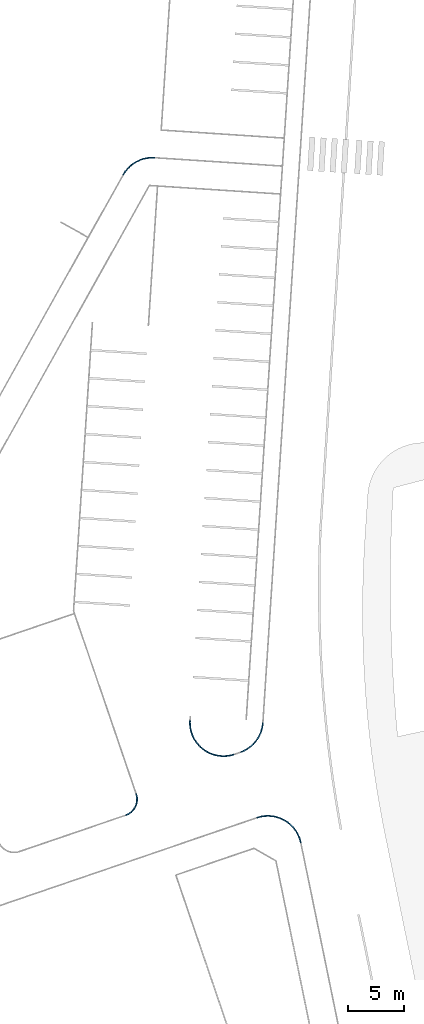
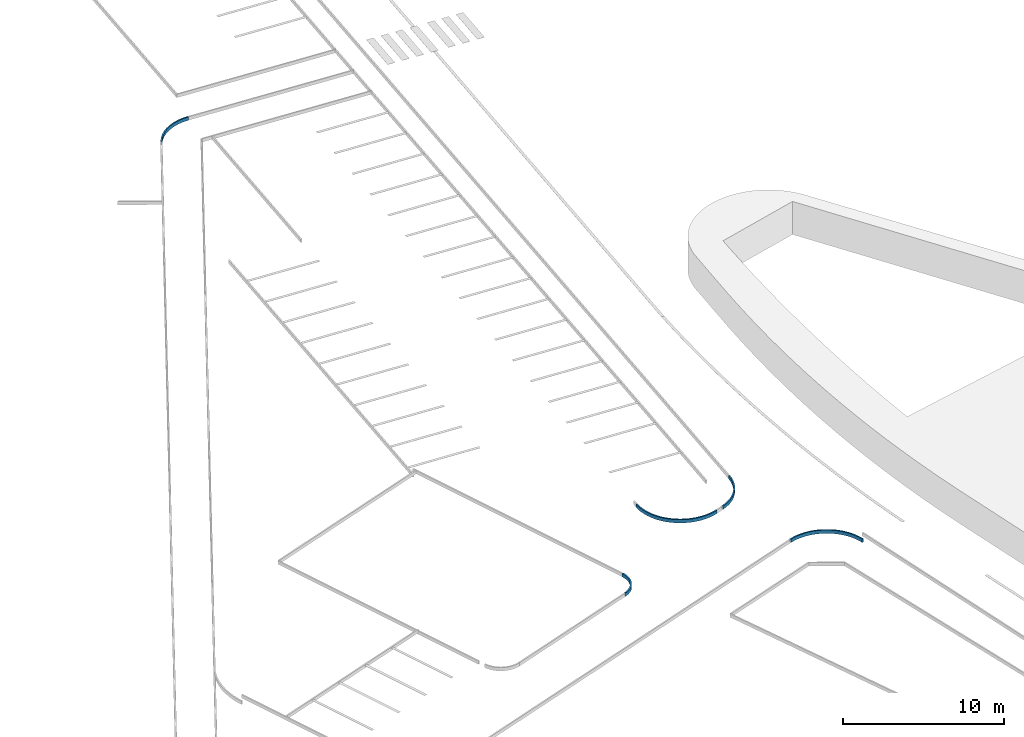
# One storey, part 95 of 112: 5 beams.
"""IFC2X3 building model written with IfcOpenShell, lengths in millimetres."""

from ifc_helpers import new_model, entity, si_unit, converted_unit, derived_unit, direction, frame, origin, place, context, subcontext, project, spatial, faceted_brep, material, type_object, element, save


model = new_model("IFC2X3")

# Units and contexts
model_context = context("Model", 3, precision=0.01, world=origin(), true_north=direction((6.123031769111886e-17, 1.0)))
body_context = subcontext(model_context, "Body", "Model", "MODEL_VIEW")
ifc_project = project(units=[si_unit("LENGTHUNIT", "METRE", prefix="MILLI"), si_unit("AREAUNIT", "SQUARE_METRE"), si_unit("VOLUMEUNIT", "CUBIC_METRE"), converted_unit("PLANEANGLEUNIT", "DEGREE", entity("IfcRatioMeasure", 0.017453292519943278), si_unit("PLANEANGLEUNIT", "RADIAN"), dimensions=[0, 0, 0, 0, 0, 0, 0]), si_unit("MASSUNIT", "GRAM", prefix="KILO"), derived_unit("MASSDENSITYUNIT", [(si_unit("MASSUNIT", "GRAM", prefix="KILO"), 1), (si_unit("LENGTHUNIT", "METRE"), -3)]), derived_unit("MOMENTOFINERTIAUNIT", [(si_unit("LENGTHUNIT", "METRE"), 4)]), si_unit("TIMEUNIT", "SECOND"), si_unit("FREQUENCYUNIT", "HERTZ"), si_unit("THERMODYNAMICTEMPERATUREUNIT", "DEGREE_CELSIUS"), derived_unit("THERMALTRANSMITTANCEUNIT", [(si_unit("MASSUNIT", "GRAM", prefix="KILO"), 1), (si_unit("THERMODYNAMICTEMPERATUREUNIT", "KELVIN"), -1), (si_unit("TIMEUNIT", "SECOND"), -3)]), derived_unit("THERMALCONDUCTANCEUNIT", [(si_unit("MASSUNIT", "GRAM", prefix="KILO"), 1), (si_unit("LENGTHUNIT", "METRE"), 1), (si_unit("THERMODYNAMICTEMPERATUREUNIT", "KELVIN"), -1), (si_unit("TIMEUNIT", "SECOND"), -3)]), derived_unit("VOLUMETRICFLOWRATEUNIT", [(si_unit("LENGTHUNIT", "METRE"), 3), (si_unit("TIMEUNIT", "SECOND"), -1)]), derived_unit("MASSFLOWRATEUNIT", [(si_unit("MASSUNIT", "GRAM", prefix="KILO"), 1), (si_unit("TIMEUNIT", "SECOND"), -1)]), derived_unit("ROTATIONALFREQUENCYUNIT", [(si_unit("TIMEUNIT", "SECOND"), -1)]), si_unit("ELECTRICCURRENTUNIT", "AMPERE"), si_unit("ELECTRICVOLTAGEUNIT", "VOLT"), si_unit("POWERUNIT", "WATT"), converted_unit("FORCEUNIT", "KIP", entity("IfcRatioMeasure", 2.088543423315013e-05), si_unit("FORCEUNIT", "NEWTON"), dimensions=[1, 1, -2, 0, 0, 0, 0]), si_unit("ILLUMINANCEUNIT", "LUX"), si_unit("LUMINOUSFLUXUNIT", "LUMEN"), si_unit("LUMINOUSINTENSITYUNIT", "CANDELA"), derived_unit("USERDEFINED", [(si_unit("MASSUNIT", "GRAM", prefix="KILO"), -1), (si_unit("LENGTHUNIT", "METRE"), -2), (si_unit("TIMEUNIT", "SECOND"), 3), (si_unit("LUMINOUSFLUXUNIT", "LUMEN"), 1)]), derived_unit("USERDEFINED", [(si_unit("MASSUNIT", "GRAM", prefix="KILO"), 1), (si_unit("LENGTHUNIT", "METRE"), 3), (si_unit("TIMEUNIT", "SECOND"), -3), (si_unit("ELECTRICCURRENTUNIT", "AMPERE"), -2)]), derived_unit("USERDEFINED", [(si_unit("LENGTHUNIT", "METRE"), 2), (si_unit("TIMEUNIT", "SECOND"), -2)]), derived_unit("SOUNDPOWERUNIT", [(si_unit("MASSUNIT", "GRAM", prefix="KILO"), 1), (si_unit("LENGTHUNIT", "METRE"), 2), (si_unit("TIMEUNIT", "SECOND"), -3)]), derived_unit("SOUNDPRESSUREUNIT", [(si_unit("MASSUNIT", "GRAM", prefix="KILO"), 1), (si_unit("LENGTHUNIT", "METRE"), -1), (si_unit("TIMEUNIT", "SECOND"), -2)]), derived_unit("LINEARVELOCITYUNIT", [(si_unit("LENGTHUNIT", "METRE"), 1), (si_unit("TIMEUNIT", "SECOND"), -1)]), si_unit("PRESSUREUNIT", "PASCAL"), derived_unit("USERDEFINED", [(si_unit("LENGTHUNIT", "METRE"), -2), (si_unit("MASSUNIT", "GRAM", prefix="KILO"), 1), (si_unit("TIMEUNIT", "SECOND"), -2)]), derived_unit("LINEARFORCEUNIT", [(si_unit("MASSUNIT", "GRAM", prefix="KILO"), 1), (si_unit("LENGTHUNIT", "METRE"), 1), (si_unit("TIMEUNIT", "SECOND"), -2), (si_unit("LENGTHUNIT", "METRE"), -1)]), derived_unit("PLANARFORCEUNIT", [(si_unit("MASSUNIT", "GRAM", prefix="KILO"), 1), (si_unit("LENGTHUNIT", "METRE"), 1), (si_unit("TIMEUNIT", "SECOND"), -2), (si_unit("LENGTHUNIT", "METRE"), -2)]), derived_unit("SPECIFICHEATCAPACITYUNIT", [(si_unit("LENGTHUNIT", "METRE"), 2), (si_unit("TIMEUNIT", "SECOND"), -2), (si_unit("THERMODYNAMICTEMPERATUREUNIT", "KELVIN"), -1)]), derived_unit("VAPORPERMEABILITYUNIT", [(si_unit("TIMEUNIT", "SECOND"), 1), (si_unit("LENGTHUNIT", "METRE"), -1)]), derived_unit("DYNAMICVISCOSITYUNIT", [(si_unit("MASSUNIT", "GRAM", prefix="KILO"), 1), (si_unit("LENGTHUNIT", "METRE"), -1), (si_unit("TIMEUNIT", "SECOND"), -1)]), derived_unit("THERMALEXPANSIONCOEFFICIENTUNIT", [(si_unit("THERMODYNAMICTEMPERATUREUNIT", "KELVIN"), -1)])], contexts=[model_context])

# Site, building, storey
site_placement = place(None, frame((0.0, 0.0, 0.0), z_axis=(0.0, 0.0, 1.0), x_axis=(0.8191520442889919, 0.5735764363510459, 0.0)))
site = spatial("IfcSite", under=ifc_project, at=site_placement, Name="Default", CompositionType="ELEMENT")
building_placement = place(site_placement, origin())
building = spatial("IfcBuilding", under=site, at=building_placement, CompositionType="ELEMENT")
storey_placement = place(building_placement, frame((0.0, 0.0, -3600.0)))
storey = spatial("IfcBuildingStorey", under=building, at=storey_placement, Name="0.UG -3.60", CompositionType="ELEMENT", Elevation=-3600.0000000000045)

# Beams
ifc_material = material(Name="Paveta_bordur")
beam_type_1 = type_object("IfcBeamType", Name="Beam-178", PredefinedType="NOTDEFINED")
beam_1_placement = place(storey_placement, frame((120795.47031885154, 171378.61991757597, 860.0)))
element("IfcBeam", 1, at=beam_1_placement, inside=storey, type_object=beam_type_1, material=ifc_material, Name="Beam-178 227982:Beam-178 227982", ObjectType="Beam-178 227982:Beam-178 227982", context=body_context, shape_type="Brep", body=[
    faceted_brep([(45.11311952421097, 356.75181462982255, 0.0), (45.11311952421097, 356.75181462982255, 250.0), (1.5952722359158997, 446.78623564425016, 250.0), (1.5952722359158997, 446.78623564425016, 0.0), (3237.7357147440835, 79.59065390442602, 0.0), (3237.7357147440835, 79.59065390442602, 250.0), (3175.152007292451, 1.5952722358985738, 250.0), (3175.152007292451, 1.5952722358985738, 0.0), (213.73351475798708, 431.8400802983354, 250.0), (213.73351475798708, 431.8400802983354, 0.0), (563.3947289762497, 549.6873918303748, 0.0), (563.3947289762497, 549.6873918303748, 250.0), (386.71979742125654, 496.2359756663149, 250.0), (386.71979742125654, 496.2359756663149, 0.0), (1108.5787100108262, 642.5011325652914, 250.0), (1108.5787100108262, 642.5011325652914, 0.0), (1292.9879152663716, 650.5217526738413, 0.0), (1292.9879152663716, 650.5217526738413, 250.0), (925.0320875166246, 622.9634074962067, 250.0), (925.0320875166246, 622.9634074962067, 0.0), (743.0666298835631, 591.9850673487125, 250.0), (743.0666298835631, 591.9850673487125, 0.0), (1477.537744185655, 646.9938672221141, 0.0), (1477.537744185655, 646.9938672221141, 250.0), (1661.505687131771, 631.931287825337, 0.0), (1661.505687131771, 631.931287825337, 250.0), (2202.744173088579, 518.3493131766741, 250.0), (2024.8200866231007, 567.4828535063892, 250.0), (2024.8200866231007, 567.4828535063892, 0.0), (2202.744173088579, 518.3493131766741, 0.0), (1844.1715125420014, 605.3929842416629, 250.0), (1844.1715125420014, 605.3929842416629, 0.0), (2377.2472019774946, 458.1847202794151, 250.0), (2377.2472019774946, 458.1847202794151, 0.0), (3027.6418276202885, 112.55396825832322, 0.0), (3027.6418276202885, 112.55396825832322, 250.0), (2873.4811292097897, 214.07029401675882, 250.0), (2873.4811292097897, 214.07029401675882, 0.0), (2713.2734487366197, 305.7468147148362, 250.0), (2547.6459967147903, 387.2246182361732, 250.0), (2547.6459967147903, 387.2246182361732, 0.0), (2713.2734487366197, 305.7468147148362, 0.0), (2232.365356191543, 613.8615402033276, 250.0), (1861.63785727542, 703.8558036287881, 250.0), (1482.575996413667, 746.8668666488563, 250.0), (1101.1100482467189, 742.2218379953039, 250.0), (723.2078984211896, 689.9933873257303, 250.0), (354.7816783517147, 590.9986083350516, 250.0), (2925.838845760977, 299.26811979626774, 250.0), (2588.9586063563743, 478.2920014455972, 250.0), (354.7816783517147, 590.9986083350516, 0.0), (1101.1100482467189, 742.2218379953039, 0.0), (723.2078984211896, 689.9933873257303, 0.0), (1482.575996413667, 746.8668666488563, 0.0), (1861.63785727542, 703.8558036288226, 0.0), (2232.3653561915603, 613.8615402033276, 0.0), (2925.838845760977, 299.26811979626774, 0.0), (2588.9586063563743, 478.2920014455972, 0.0)], [[[0, 1, 2, 3]], [[4, 5, 6, 7]], [[8, 1, 0, 9]], [[10, 11, 12, 13]], [[12, 8, 9, 13]], [[14, 15, 16, 17]], [[14, 18, 19, 15]], [[19, 18, 20, 21]], [[22, 23, 17, 16]], [[10, 21, 20, 11]], [[22, 24, 25, 23]], [[26, 27, 28, 29]], [[27, 30, 31, 28]], [[32, 26, 29, 33]], [[34, 35, 36, 37]], [[38, 39, 40, 41]], [[36, 38, 41, 37]], [[40, 39, 32, 33]], [[6, 35, 34, 7]], [[24, 31, 30, 25]], [[42, 43, 44, 45, 46, 47, 2, 1, 8, 12, 11, 20, 18, 14, 17, 23, 25, 30, 27, 26, 32, 39, 38, 36, 35, 6, 5, 48, 49]], [[2, 47, 50, 3]], [[51, 52, 46, 45]], [[53, 51, 45, 44]], [[47, 46, 52, 50]], [[44, 43, 54, 53]], [[55, 54, 43, 42]], [[56, 57, 49, 48]], [[42, 49, 57, 55]], [[4, 56, 48, 5]], [[33, 29, 28, 31, 24, 22, 16, 15, 19, 21, 10, 13, 9, 0, 3, 50, 52, 51, 53, 54, 55, 57, 56, 4, 7, 34, 37, 41, 40]]]),
])
beam_type_2 = type_object("IfcBeamType", Name="Beam-164", PredefinedType="NOTDEFINED")
beam_2_placement = place(storey_placement, frame((99810.95785331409, 123430.23583983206, 860.0)))
element("IfcBeam", 2, at=beam_2_placement, inside=storey, type_object=beam_type_2, material=ifc_material, Name="Beam-164:Beam-164", ObjectType="Beam-164:Beam-164", context=body_context, shape_type="Brep", body=[
    faceted_brep([(29.342731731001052, 216.21652345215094, 250.0), (29.342731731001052, 216.21652345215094, 0.0), (1.5952722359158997, 120.14322595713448, 0.0), (1.5952722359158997, 120.14322595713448, 250.0), (3226.7459086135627, 1141.5682209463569, 0.0), (3148.7507242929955, 1204.1521743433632, 0.0), (3148.7507242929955, 1204.1521743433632, 250.0), (3226.7459086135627, 1141.5682209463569, 250.0), (2372.09913923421, 408.54326430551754, 0.0), (2034.3118125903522, 240.59056993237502, 0.0), (1764.8024921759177, 155.23531453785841, 0.0), (1495.2931717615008, 69.88005914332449, 0.0), (1122.405248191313, 12.757541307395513, 0.0), (745.3178701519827, 2.104142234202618, 0.0), (369.7996693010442, 38.0828361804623, 0.0), (216.08316180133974, 168.83119493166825, 0.0), (405.5183466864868, 133.73606265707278, 0.0), (596.8403193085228, 111.08081218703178, 0.0), (789.2330651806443, 100.96207127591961, 0.0), (981.8760028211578, 103.42299774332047, 0.0), (1173.9474836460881, 118.45309539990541, 0.0), (1364.6282964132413, 145.9882588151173, 0.0), (1553.105161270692, 185.911046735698, 0.0), (1738.5741985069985, 238.0511829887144, 0.0), (1920.244357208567, 302.18628273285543, 0.0), (2097.340789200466, 378.0428009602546, 0.0), (2269.108153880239, 465.29719920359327, 0.0), (2434.8138398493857, 563.5773254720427, 0.0), (2593.7510896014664, 672.4640015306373, 0.0), (2745.2420139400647, 791.4928107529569, 0.0), (2888.640483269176, 920.1560789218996, 0.0), (3023.3348834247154, 1057.905039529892, 0.0), (2972.9117623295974, 862.5044078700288, 0.0), (2686.5693634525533, 616.9104010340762, 0.0), (369.7996693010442, 38.0828361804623, 250.0), (745.3178701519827, 2.104142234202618, 250.0), (1122.405248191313, 12.757541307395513, 250.0), (2034.3118125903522, 240.59056993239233, 250.0), (1764.8024921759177, 155.23531453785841, 250.0), (1495.2931717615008, 69.88005914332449, 250.0), (2372.09913923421, 408.54326430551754, 250.0), (2686.5693634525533, 616.9104010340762, 250.0), (2972.9117623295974, 862.5044078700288, 250.0), (2434.8138398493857, 563.5773254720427, 250.0), (2269.108153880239, 465.29719920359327, 250.0), (2097.340789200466, 378.0428009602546, 250.0), (1920.244357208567, 302.18628273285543, 250.0), (1738.5741985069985, 238.0511829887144, 250.0), (1553.105161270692, 185.911046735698, 250.0), (1364.6282964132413, 145.9882588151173, 250.0), (1173.9474836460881, 118.45309539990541, 250.0), (981.8760028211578, 103.42299774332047, 250.0), (789.2330651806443, 100.96207127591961, 250.0), (596.8403193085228, 111.08081218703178, 250.0), (405.5183466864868, 133.73606265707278, 250.0), (216.08316180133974, 168.83119493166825, 250.0), (3023.3348834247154, 1057.905039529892, 250.0), (2888.640483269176, 920.1560789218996, 250.0), (2745.2420139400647, 791.4928107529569, 250.0), (2593.7510896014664, 672.4640015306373, 250.0)], [[[0, 1, 2, 3]], [[4, 5, 6, 7]], [[8, 9, 10, 11, 12, 13, 14, 2, 1, 15, 16, 17, 18, 19, 20, 21, 22, 23, 24, 25, 26, 27, 28, 29, 30, 31, 5, 4, 32, 33]], [[2, 14, 34, 3]], [[35, 13, 12, 36]], [[9, 37, 38, 39, 11, 10]], [[36, 12, 11, 39]], [[14, 13, 35, 34]], [[37, 9, 8, 40]], [[41, 33, 32, 42]], [[8, 33, 41, 40]], [[42, 32, 4, 7]], [[43, 44, 45, 46, 47, 48, 49, 50, 51, 52, 53, 54, 55, 0, 3, 34, 35, 36, 39, 38, 37, 40, 41, 42, 7, 6, 56, 57, 58, 59]], [[15, 1, 0, 55]], [[16, 15, 55, 54]], [[49, 48, 22, 21]], [[20, 19, 51, 50]], [[21, 20, 50, 49]], [[18, 52, 51, 19]], [[23, 22, 48, 47]], [[54, 53, 17, 16]], [[52, 18, 17, 53]], [[26, 25, 45, 44]], [[25, 24, 46, 45]], [[27, 26, 44, 43]], [[57, 56, 31, 30]], [[29, 28, 59, 58]], [[30, 29, 58, 57]], [[43, 59, 28, 27]], [[5, 31, 56, 6]], [[46, 24, 23, 47]]]),
])
beam_type_3 = type_object("IfcBeamType", Name="Beam-164", PredefinedType="NOTDEFINED")
beam_3_placement = place(storey_placement, frame((97087.4960524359, 123699.09831130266, 860.0)))
element("IfcBeam", 3, at=beam_3_placement, inside=storey, type_object=beam_type_3, material=ifc_material, Name="Beam-164 236958:Beam-164 236958", ObjectType="Beam-164 236958:Beam-164 236958", context=body_context, shape_type="Brep", body=[
    faceted_brep([(750.1617829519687, 4778.203015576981, 250.0), (750.1617829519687, 4778.203015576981, 0.0), (672.1705577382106, 4840.791902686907, 0.0), (672.1705577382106, 4840.791902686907, 250.0), (2204.6054121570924, 1.5952722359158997, 0.0), (2232.3528716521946, 97.66856973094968, 0.0), (2232.3528716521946, 97.66856973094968, 250.0), (2204.6054121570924, 1.5952722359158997, 250.0), (2020.6066717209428, 61.118455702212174, 0.0), (1840.749998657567, 132.18267318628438, 0.0), (1665.7584650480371, 214.502227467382, 0.0), (1496.3355838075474, 307.74617185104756, 0.0), (1333.1624803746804, 411.5396406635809, 0.0), (1176.8951544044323, 525.4653563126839, 0.0), (1028.161842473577, 649.0653068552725, 0.0), (887.5604924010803, 781.8425873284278, 0.0), (755.6563593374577, 923.263397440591, 0.0), (632.9797332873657, 1072.7591875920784, 0.0), (520.0238072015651, 1229.7289445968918, 0.0), (417.24269420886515, 1393.5416079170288, 0.0), (325.0496019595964, 1563.5386066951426, 0.0), (243.81517141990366, 1739.0365073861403, 0.0), (173.86598679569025, 1919.3297613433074, 0.0), (115.48326257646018, 2103.6935413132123, 0.0), (68.9017129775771, 2291.386655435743, 0.0), (34.308608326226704, 2481.654527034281, 0.0), (11.843022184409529, 2673.732228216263, 0.0), (1.5952722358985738, 2866.8475550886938, 0.0), (3.606557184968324, 3060.2241322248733, 0.0), (17.868791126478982, 3253.08453390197, 0.0), (44.32463605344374, 3444.653409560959, 0.0), (82.8677323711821, 3634.1606009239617, 0.0), (133.34312649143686, 3820.8442382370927, 0.0), (195.54789378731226, 4003.9538031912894, 0.0), (269.23195440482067, 4182.753146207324, 0.0), (354.09907865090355, 4356.523445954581, 0.0), (449.8080779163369, 4524.566099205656, 0.0), (555.9741763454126, 4686.2055294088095, 0.0), (634.1935776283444, 4623.580213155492, 0.0), (528.5994733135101, 4461.6953132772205, 0.0), (433.8327491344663, 4293.243232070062, 0.0), (350.30020600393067, 4118.9470763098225, 0.0), (278.3604203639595, 3939.5550393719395, 0.0), (218.32220494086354, 3755.8371894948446, 0.0), (170.44328311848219, 3568.5821641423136, 0.0), (134.9291826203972, 3378.593784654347, 0.0), (111.93235325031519, 3186.687605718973, 0.0), (101.55151247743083, 2993.6874144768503, 0.0), (103.83122167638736, 2800.42169428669, 0.0), (118.76169484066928, 2607.7200683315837, 0.0), (146.27884059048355, 2416.4097383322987, 0.0), (186.2645372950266, 2227.3119336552, 0.0), (238.54714012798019, 2041.2383860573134, 0.0), (302.9022178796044, 1858.9878452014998, 0.0), (379.05351636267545, 1681.3426498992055, 0.0), (466.67414427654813, 1509.065369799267, 0.0), (565.3879764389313, 1342.8955319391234, 0.0), (674.771268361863, 1183.5464462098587, 0.0), (794.3544752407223, 1031.702143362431, 0.0), (923.624267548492, 888.0144386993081, 0.0), (1062.025734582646, 753.1001340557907, 0.0), (1208.9647665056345, 627.538370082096, 0.0), (1363.8106046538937, 511.8681401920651, 0.0), (1525.8985491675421, 406.58597684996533, 0.0), (1694.5328123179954, 312.1438201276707, 0.0), (1868.9895052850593, 228.9470776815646, 0.0), (2048.5197455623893, 157.352884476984, 0.0), (555.9741763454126, 4686.2055294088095, 250.0), (449.8080779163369, 4524.566099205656, 250.0), (269.23195440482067, 4182.753146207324, 250.0), (354.09907865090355, 4356.523445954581, 250.0), (133.34312649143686, 3820.8442382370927, 250.0), (195.54789378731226, 4003.9538031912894, 250.0), (82.8677323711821, 3634.1606009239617, 250.0), (1.5952722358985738, 2866.8475550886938, 250.0), (11.843022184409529, 2673.732228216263, 250.0), (34.308608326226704, 2481.654527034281, 250.0), (68.9017129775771, 2291.386655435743, 250.0), (44.32463605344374, 3444.653409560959, 250.0), (17.868791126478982, 3253.08453390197, 250.0), (3.606557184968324, 3060.2241322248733, 250.0), (115.48326257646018, 2103.6935413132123, 250.0), (173.86598679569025, 1919.3297613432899, 250.0), (520.0238072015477, 1229.7289445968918, 250.0), (417.24269420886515, 1393.5416079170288, 250.0), (632.9797332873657, 1072.7591875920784, 250.0), (755.6563593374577, 923.263397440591, 250.0), (243.81517141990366, 1739.0365073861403, 250.0), (325.0496019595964, 1563.5386066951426, 250.0), (887.5604924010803, 781.8425873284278, 250.0), (1496.3355838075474, 307.74617185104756, 250.0), (1665.7584650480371, 214.502227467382, 250.0), (1840.7499986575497, 132.18267318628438, 250.0), (2020.6066717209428, 61.118455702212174, 250.0), (1028.161842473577, 649.0653068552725, 250.0), (1176.8951544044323, 525.4653563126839, 250.0), (1333.1624803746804, 411.5396406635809, 250.0), (2048.5197455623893, 157.352884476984, 250.0), (1868.9895052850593, 228.9470776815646, 250.0), (1694.5328123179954, 312.1438201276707, 250.0), (1525.8985491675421, 406.58597684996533, 250.0), (1363.8106046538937, 511.8681401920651, 250.0), (1208.9647665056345, 627.538370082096, 250.0), (1062.025734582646, 753.1001340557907, 250.0), (923.624267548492, 888.0144386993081, 250.0), (794.3544752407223, 1031.702143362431, 250.0), (674.771268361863, 1183.5464462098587, 250.0), (565.3879764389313, 1342.8955319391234, 250.0), (466.67414427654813, 1509.065369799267, 250.0), (379.05351636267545, 1681.3426498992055, 250.0), (302.9022178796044, 1858.9878452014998, 250.0), (238.54714012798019, 2041.2383860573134, 250.0), (186.2645372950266, 2227.3119336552, 250.0), (146.27884059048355, 2416.4097383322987, 250.0), (118.76169484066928, 2607.7200683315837, 250.0), (103.83122167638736, 2800.42169428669, 250.0), (101.55151247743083, 2993.6874144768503, 250.0), (111.93235325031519, 3186.687605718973, 250.0), (134.9291826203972, 3378.593784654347, 250.0), (170.44328311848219, 3568.5821641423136, 250.0), (218.32220494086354, 3755.8371894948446, 250.0), (278.3604203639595, 3939.5550393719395, 250.0), (350.30020600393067, 4118.9470763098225, 250.0), (433.8327491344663, 4293.243232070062, 250.0), (528.5994733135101, 4461.6953132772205, 250.0), (634.1935776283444, 4623.580213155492, 250.0)], [[[0, 1, 2, 3]], [[4, 5, 6, 7]], [[5, 4, 8, 9, 10, 11, 12, 13, 14, 15, 16, 17, 18, 19, 20, 21, 22, 23, 24, 25, 26, 27, 28, 29, 30, 31, 32, 33, 34, 35, 36, 37, 2, 1, 38, 39, 40, 41, 42, 43, 44, 45, 46, 47, 48, 49, 50, 51, 52, 53, 54, 55, 56, 57, 58, 59, 60, 61, 62, 63, 64, 65, 66]], [[37, 67, 3, 2]], [[36, 68, 67, 37]], [[34, 69, 70, 35]], [[71, 72, 33, 32]], [[35, 70, 68, 36]], [[71, 32, 31, 73]], [[33, 72, 69, 34]], [[74, 27, 26, 75]], [[75, 26, 25, 76]], [[76, 25, 24, 77]], [[78, 30, 29, 79]], [[29, 28, 80, 79]], [[80, 28, 27, 74]], [[31, 30, 78, 73]], [[77, 24, 23, 81]], [[23, 22, 82, 81]], [[18, 83, 84, 19]], [[17, 85, 83, 18]], [[16, 86, 85, 17]], [[82, 22, 21, 87]], [[87, 21, 20, 88]], [[19, 84, 88, 20]], [[86, 16, 15, 89]], [[90, 11, 10, 91]], [[91, 10, 9, 92]], [[92, 9, 8, 93]], [[94, 14, 13, 95]], [[13, 12, 96, 95]], [[96, 12, 11, 90]], [[15, 14, 94, 89]], [[93, 8, 4, 7]], [[93, 7, 6, 97, 98, 99, 100, 101, 102, 103, 104, 105, 106, 107, 108, 109, 110, 111, 112, 113, 114, 115, 116, 117, 118, 119, 120, 121, 122, 123, 124, 125, 0, 3, 67, 68, 70, 69, 72, 71, 73, 78, 79, 80, 74, 75, 76, 77, 81, 82, 87, 88, 84, 83, 85, 86, 89, 94, 95, 96, 90, 91, 92]], [[1, 0, 125, 38]], [[38, 125, 124, 39]], [[123, 40, 39, 124]], [[44, 43, 120, 119]], [[122, 41, 40, 123]], [[49, 48, 115, 114]], [[50, 49, 114, 113]], [[51, 50, 113, 112]], [[46, 45, 118, 117]], [[117, 116, 47, 46]], [[48, 47, 116, 115]], [[119, 118, 45, 44]], [[51, 112, 111, 52]], [[121, 42, 41, 122]], [[42, 121, 120, 43]], [[56, 107, 106, 57]], [[57, 106, 105, 58]], [[54, 53, 110, 109]], [[55, 54, 109, 108]], [[55, 108, 107, 56]], [[59, 58, 105, 104]], [[64, 63, 100, 99]], [[65, 64, 99, 98]], [[66, 65, 98, 97]], [[61, 60, 103, 102]], [[102, 101, 62, 61]], [[63, 62, 101, 100]], [[104, 103, 60, 59]], [[5, 66, 97, 6]], [[110, 53, 52, 111]]]),
])
beam_type_4 = type_object("IfcBeamType", Name="Beam-170", PredefinedType="NOTDEFINED")
beam_4_placement = place(storey_placement, frame((97693.89936392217, 113870.65459600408, 1360.0)))
element("IfcBeam", 4, at=beam_4_placement, inside=storey, type_object=beam_type_4, material=ifc_material, Name="Beam-170:Beam-170", ObjectType="Beam-170:Beam-170", context=body_context, shape_type="Brep", body=[
    faceted_brep([(1.5952722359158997, 4045.932152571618, 0.0), (1.5952722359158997, 4045.932152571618, 250.0), (29.342731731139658, 4142.005450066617, 250.0), (29.342731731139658, 4142.005450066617, 0.0), (1982.6840201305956, 1.5952722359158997, 250.0), (1890.8925839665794, 41.27312811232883, 250.0), (1890.8925839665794, 41.27312811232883, 0.0), (1982.6840201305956, 1.5952722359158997, 0.0), (184.77255551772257, 3986.4846977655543, 250.0), (184.77255551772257, 3986.4846977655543, 0.0), (363.6807229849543, 3915.2120900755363, 0.0), (363.6807229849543, 3915.2120900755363, 250.0), (705.6613032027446, 3738.455502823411, 0.0), (867.2762787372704, 3633.724816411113, 0.0), (867.2762787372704, 3633.724816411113, 250.0), (705.6613032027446, 3738.455502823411, 250.0), (537.5573119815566, 3832.41807584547, 250.0), (537.5573119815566, 3832.41807584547, 0.0), (1555.0377493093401, 2965.665947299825, 250.0), (1435.546294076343, 3116.694782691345, 250.0), (1435.546294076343, 3116.694782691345, 0.0), (1555.0377493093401, 2965.665947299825, 0.0), (1664.420355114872, 2807.162437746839, 250.0), (1664.420355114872, 2807.162437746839, 0.0), (1168.3147193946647, 3393.7884381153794, 250.0), (1021.7134752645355, 3518.6723530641, 250.0), (1021.7134752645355, 3518.6723530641, 0.0), (1168.3147193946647, 3393.7884381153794, 0.0), (1306.4552326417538, 3259.6052961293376, 250.0), (1306.4552326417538, 3259.6052961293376, 0.0), (1763.227949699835, 2641.8597570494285, 250.0), (1763.227949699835, 2641.8597570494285, 0.0), (1851.0394393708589, 2470.462384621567, 0.0), (1851.0394393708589, 2470.462384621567, 250.0), (2044.9986452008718, 1927.117746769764, 250.0), (2044.9986452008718, 1927.117746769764, 0.0), (2085.574710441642, 1738.858617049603, 0.0), (2085.574710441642, 1738.858617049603, 250.0), (2113.780908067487, 1548.3531646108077, 0.0), (2113.780908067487, 1548.3531646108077, 250.0), (1992.2256375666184, 2112.328239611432, 250.0), (1927.4805931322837, 2293.700773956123, 250.0), (1927.4805931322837, 2293.700773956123, 0.0), (1992.2256375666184, 2112.328239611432, 0.0), (2129.497030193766, 1356.4132768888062, 250.0), (2129.497030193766, 1356.4132768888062, 0.0), (2020.2549047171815, 403.84587716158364, 250.0), (2066.9240407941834, 590.6878123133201, 250.0), (2066.9240407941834, 590.6878123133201, 0.0), (2020.2549047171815, 403.84587716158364, 0.0), (1961.4942779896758, 220.44711560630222, 250.0), (1961.4942779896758, 220.44711560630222, 0.0), (2123.24465002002, 971.5048252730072, 250.0), (2132.6560985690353, 1163.8569545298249, 250.0), (2132.6560985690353, 1163.8569545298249, 0.0), (2123.24465002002, 971.5048252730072, 0.0), (2101.3027938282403, 780.176646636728, 0.0), (2101.3027938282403, 780.176646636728, 250.0), (2219.2928002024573, 1501.080460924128, 250.0), (2159.032663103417, 1879.601233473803, 250.0), (2051.774395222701, 2247.575313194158, 250.0), (1929.2209181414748, 2507.346438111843, 250.0), (1806.6674410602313, 2767.11756302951, 250.0), (1590.879504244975, 3083.890077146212, 250.0), (1337.0659665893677, 3371.097227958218, 250.0), (1049.2351655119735, 3624.203311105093, 250.0), (731.9326543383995, 3839.211161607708, 250.0), (390.16941688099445, 4012.7252788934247, 250.0), (2112.3571682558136, 362.28091657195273, 250.0), (2195.769305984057, 736.3820722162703, 250.0), (2231.603151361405, 1117.990765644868, 250.0), (390.16941688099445, 4012.7252788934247, 0.0), (1929.2209181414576, 2507.3464381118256, 0.0), (1806.6674410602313, 2767.11756302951, 0.0), (2051.774395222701, 2247.575313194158, 0.0), (731.9326543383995, 3839.211161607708, 0.0), (1590.879504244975, 3083.890077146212, 0.0), (1337.0659665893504, 3371.097227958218, 0.0), (1049.2351655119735, 3624.203311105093, 0.0), (2159.032663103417, 1879.601233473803, 0.0), (2219.2928002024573, 1501.0804609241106, 0.0), (2112.3571682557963, 362.28091657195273, 0.0), (2195.76930598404, 736.3820722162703, 0.0), (2231.603151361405, 1117.990765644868, 0.0)], [[[0, 1, 2, 3]], [[4, 5, 6, 7]], [[8, 1, 0, 9]], [[8, 9, 10, 11]], [[12, 13, 14, 15]], [[12, 15, 16, 17]], [[16, 11, 10, 17]], [[18, 19, 20, 21]], [[22, 18, 21, 23]], [[24, 25, 26, 27]], [[28, 24, 27, 29]], [[28, 29, 20, 19]], [[14, 13, 26, 25]], [[30, 22, 23, 31]], [[31, 32, 33, 30]], [[34, 35, 36, 37]], [[37, 36, 38, 39]], [[40, 41, 42, 43]], [[40, 43, 35, 34]], [[44, 39, 38, 45]], [[46, 47, 48, 49]], [[50, 46, 49, 51]], [[52, 53, 54, 55]], [[56, 57, 52, 55]], [[47, 57, 56, 48]], [[53, 44, 45, 54]], [[5, 50, 51, 6]], [[33, 32, 42, 41]], [[58, 59, 60, 61, 62, 63, 64, 65, 66, 67, 2, 1, 8, 11, 16, 15, 14, 25, 24, 28, 19, 18, 22, 30, 33, 41, 40, 34, 37, 39, 44, 53, 52, 57, 47, 46, 50, 5, 4, 68, 69, 70]], [[3, 2, 67, 71]], [[72, 73, 62, 61, 60, 74]], [[75, 71, 67, 66]], [[76, 77, 64, 63]], [[77, 78, 65, 64]], [[65, 78, 75, 66]], [[62, 73, 76, 63]], [[79, 74, 60, 59]], [[58, 80, 79, 59]], [[69, 68, 81, 82]], [[82, 83, 70, 69]], [[83, 80, 58, 70]], [[7, 81, 68, 4]], [[38, 36, 35, 43, 42, 32, 31, 23, 21, 20, 29, 27, 26, 13, 12, 17, 10, 9, 0, 3, 71, 75, 78, 77, 76, 73, 72, 74, 79, 80, 83, 82, 81, 7, 6, 51, 49, 48, 56, 55, 54, 45]]]),
])
beam_type_5 = type_object("IfcBeamType", Name="Beam-161", PredefinedType="NOTDEFINED")
beam_5_placement = place(storey_placement, frame((88229.31784167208, 124751.4221922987, 1260.0)))
element("IfcBeam", 5, at=beam_5_placement, inside=storey, type_object=beam_type_5, material=ifc_material, Name="Beam-161 240386:Beam-161 240386", ObjectType="Beam-161 240386:Beam-161 240386", context=body_context, shape_type="Brep", body=[
    faceted_brep([(29.342731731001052, 158.2418372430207, 250.0), (29.342731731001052, 158.2418372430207, 0.0), (1.5952722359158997, 62.16853974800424, 0.0), (1.5952722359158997, 62.16853974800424, 250.0), (1920.8170055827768, 1121.219028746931, 0.0), (1824.7437080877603, 1148.9664882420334, 0.0), (1824.7437080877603, 1148.9664882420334, 250.0), (1920.8170055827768, 1121.219028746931, 250.0), (1506.2677852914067, 434.2715207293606, 0.0), (1404.8228056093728, 344.86575040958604, 0.0), (1295.9716283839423, 264.641708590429, 0.0), (1180.5426767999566, 194.20994867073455, 0.0), (1059.4144348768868, 134.1064988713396, 0.0), (933.5087616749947, 84.78878273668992, 0.0), (803.783875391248, 46.63213786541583, 0.0), (671.2270607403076, 19.92695936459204, 0.0), (536.8471551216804, 4.876489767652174, 0.0), (401.6668707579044, 1.5952722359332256, 0.0), (266.71501123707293, 10.108278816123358, 0.0), (133.0186416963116, 30.350720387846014, 0.0), (159.5946558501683, 127.06131539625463, 0.0), (292.1679238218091, 108.03193551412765, 0.0), (425.931467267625, 101.31604955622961, 0.0), (559.7440627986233, 106.97095509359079, 0.0), (692.4640685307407, 124.94840646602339, 0.0), (822.9591641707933, 155.095026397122, 0.0), (950.1160115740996, 197.15361455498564, 0.0), (1072.8497533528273, 250.76534189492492, 0.0), (1190.1132684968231, 315.47281206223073, 0.0), (1300.9061060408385, 390.7239637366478, 0.0), (1404.2830205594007, 475.8767806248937, 0.0), (1499.3620366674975, 570.2047689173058, 0.0), (1585.3319737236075, 672.9031554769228, 0.0), (1661.4593665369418, 783.0957538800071, 0.0), (1727.0947230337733, 899.8424397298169, 0.0), (1781.6780654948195, 1022.1471714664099, 0.0), (1877.6659612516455, 993.0688705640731, 0.0), (1823.510097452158, 869.1672237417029, 0.0), (1758.7615730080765, 750.4570546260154, 0.0), (1683.91316328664, 637.8418192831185, 0.0), (1599.5345098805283, 532.1785876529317, 0.0), (133.0186416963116, 30.350720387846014, 250.0), (266.71501123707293, 10.108278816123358, 250.0), (401.6668707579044, 1.5952722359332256, 250.0), (933.5087616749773, 84.78878273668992, 250.0), (1059.4144348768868, 134.1064988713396, 250.0), (671.2270607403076, 19.92695936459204, 250.0), (803.783875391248, 46.63213786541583, 250.0), (1180.5426767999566, 194.20994867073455, 250.0), (536.8471551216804, 4.876489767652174, 250.0), (1404.8228056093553, 344.86575040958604, 250.0), (1506.2677852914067, 434.2715207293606, 250.0), (1295.9716283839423, 264.641708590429, 250.0), (1599.5345098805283, 532.1785876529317, 250.0), (1877.6659612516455, 993.0688705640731, 250.0), (1823.510097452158, 869.1672237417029, 250.0), (1683.91316328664, 637.8418192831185, 250.0), (1758.7615730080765, 750.4570546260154, 250.0), (1499.3620366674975, 570.2047689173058, 250.0), (1404.2830205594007, 475.8767806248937, 250.0), (1300.9061060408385, 390.7239637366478, 250.0), (1190.1132684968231, 315.47281206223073, 250.0), (1072.8497533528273, 250.76534189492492, 250.0), (950.1160115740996, 197.15361455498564, 250.0), (822.9591641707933, 155.095026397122, 250.0), (692.4640685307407, 124.94840646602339, 250.0), (559.7440627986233, 106.97095509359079, 250.0), (425.931467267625, 101.31604955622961, 250.0), (292.1679238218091, 108.03193551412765, 250.0), (159.5946558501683, 127.06131539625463, 250.0), (1781.6780654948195, 1022.1471714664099, 250.0), (1727.0947230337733, 899.8424397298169, 250.0), (1661.4593665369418, 783.0957538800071, 250.0), (1585.3319737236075, 672.9031554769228, 250.0)], [[[0, 1, 2, 3]], [[4, 5, 6, 7]], [[8, 9, 10, 11, 12, 13, 14, 15, 16, 17, 18, 19, 2, 1, 20, 21, 22, 23, 24, 25, 26, 27, 28, 29, 30, 31, 32, 33, 34, 35, 5, 4, 36, 37, 38, 39, 40]], [[41, 3, 2, 19]], [[19, 18, 42, 41]], [[17, 43, 42, 18]], [[44, 13, 12, 45]], [[46, 15, 14, 47]], [[13, 44, 47, 14]], [[12, 11, 48, 45]], [[43, 17, 16, 49]], [[46, 49, 16, 15]], [[50, 9, 8, 51]], [[52, 10, 9, 50]], [[51, 8, 40, 53]], [[37, 36, 54, 55]], [[56, 39, 38, 57]], [[57, 38, 37, 55]], [[40, 39, 56, 53]], [[54, 36, 4, 7]], [[48, 11, 10, 52]], [[58, 59, 60, 61, 62, 63, 64, 65, 66, 67, 68, 69, 0, 3, 41, 42, 43, 49, 46, 47, 44, 45, 48, 52, 50, 51, 53, 56, 57, 55, 54, 7, 6, 70, 71, 72, 73]], [[20, 1, 0, 69]], [[68, 21, 20, 69]], [[67, 22, 21, 68]], [[26, 25, 64, 63]], [[24, 23, 66, 65]], [[24, 65, 64, 25]], [[63, 62, 27, 26]], [[23, 22, 67, 66]], [[62, 61, 28, 27]], [[30, 29, 60, 59]], [[29, 28, 61, 60]], [[31, 30, 59, 58]], [[71, 70, 35, 34]], [[33, 32, 73, 72]], [[34, 33, 72, 71]], [[58, 73, 32, 31]], [[5, 35, 70, 6]]]),
])

save(model, "model.ifc")
